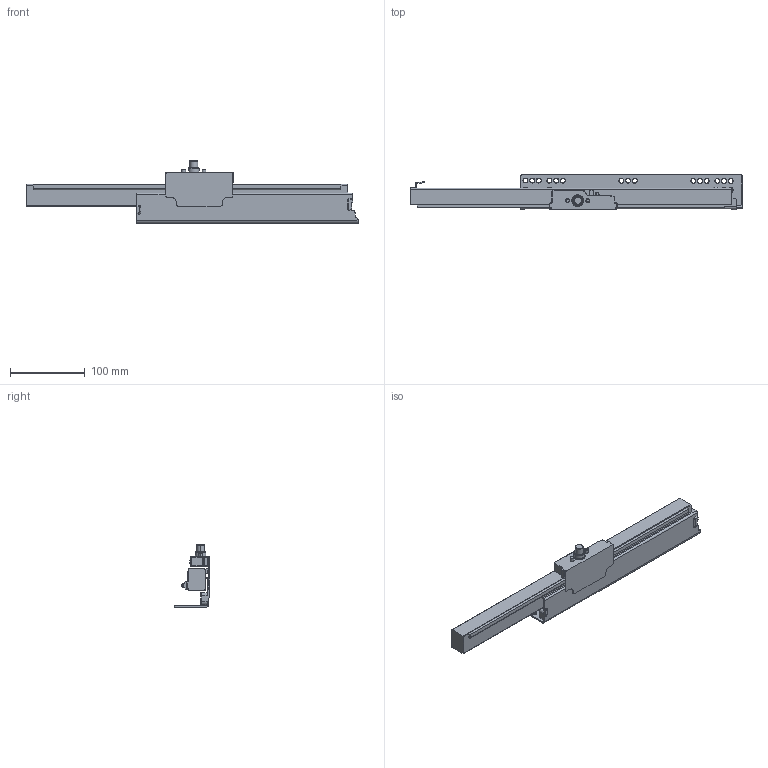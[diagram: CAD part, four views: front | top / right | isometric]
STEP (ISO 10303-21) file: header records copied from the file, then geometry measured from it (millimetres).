
FILE_DESCRIPTION (( 'STEP AP203' ), '1' );
FILE_NAME ('HT404504H-R(敕磁).STEP', '2022-05-24T07:03:04', ( 'Users' ), ( 'Microsoft' ), 'SwSTEP 2.0', 'SolidWorks 2018', '' );
FILE_SCHEMA (( 'CONFIG_CONTROL_DESIGN' ));
Length unit declared in the file: millimetre
Products named in the file (1): HT404504H-R(敕磁)
Bounding box: 443 x 47.5 x 83.3 mm (x, y, z)
Volume: 386484.5 mm3; surface area: 114158.9 mm2
Topology: 2 solids, 3 shells, 406 faces, 1026 edges, 630 vertices
Faces by surface type: cylinder 178, plane 118, torus 64, cone 40, sphere 4, bspline 2
Entity records: 12431 total; most frequent: DIRECTION 2297, CARTESIAN_POINT 2222, ORIENTED_EDGE 2044, EDGE_CURVE 1022, AXIS2_PLACEMENT_3D 893, VERTEX_POINT 630, LINE 511, VECTOR 511
